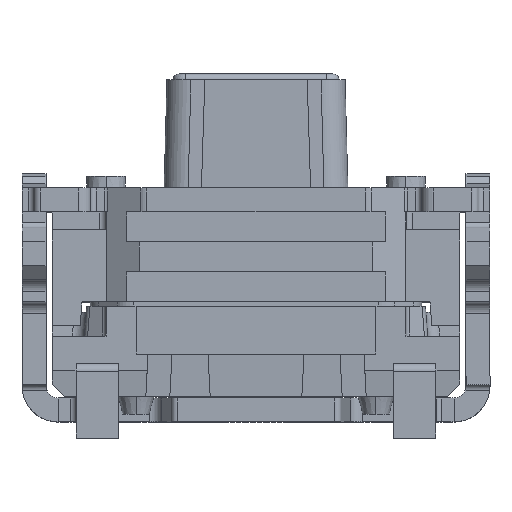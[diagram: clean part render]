
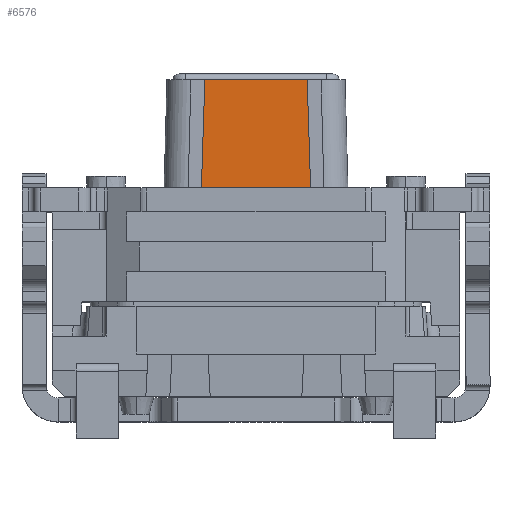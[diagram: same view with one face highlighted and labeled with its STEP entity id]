
A CAD part, top view. The second image highlights one B-rep face of the part: STEP entity #6576.
In plain terms, the highlighted planar face has unit normal (0, -0.009, 1).
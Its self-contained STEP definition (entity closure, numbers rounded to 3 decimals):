
#528 = CARTESIAN_POINT ( 'NONE',  ( -0.456, 1.699, 0.38 ) ) ;
#530 = DIRECTION ( 'NONE',  ( -0.032, -0.999, -0.009 ) ) ;
#534 = CARTESIAN_POINT ( 'NONE',  ( 0.456, 1.699, 0.38 ) ) ;
#535 = DIRECTION ( 'NONE',  ( -0.032, 0.999, 0.009 ) ) ;
#538 = CARTESIAN_POINT ( 'NONE',  ( 0., 2.635, 0.388 ) ) ;
#539 = DIRECTION ( 'NONE',  ( -1., 0., 0. ) ) ;
#540 = CARTESIAN_POINT ( 'NONE',  ( 0., 1.685, 0.38 ) ) ;
#541 = DIRECTION ( 'NONE',  ( -1., 0., 0. ) ) ;
#4683 = AXIS2_PLACEMENT_3D ( 'NONE', #9138, #9143, #9144 ) ;
#6576 = ADVANCED_FACE ( 'NONE', ( #12784 ), #9137, .T. ) ;
#8027 = EDGE_CURVE ( 'NONE', #10933, #10929, #13511, .T. ) ;
#8030 = EDGE_CURVE ( 'NONE', #10936, #10939, #13521, .T. ) ;
#8032 = EDGE_CURVE ( 'NONE', #10939, #10933, #13529, .T. ) ;
#8033 = EDGE_CURVE ( 'NONE', #10936, #10929, #13533, .T. ) ;
#9137 = PLANE ( 'NONE',  #4683 ) ;
#9138 = CARTESIAN_POINT ( 'NONE',  ( 0., 1.685, 0.38 ) ) ;
#9143 = DIRECTION ( 'NONE',  ( 0., -0.009, 1. ) ) ;
#9144 = DIRECTION ( 'NONE',  ( 0., -1., -0.009 ) ) ;
#10053 = CARTESIAN_POINT ( 'NONE',  ( -0.457, 1.685, 0.38 ) ) ;
#10055 = CARTESIAN_POINT ( 'NONE',  ( -0.427, 2.635, 0.388 ) ) ;
#10057 = CARTESIAN_POINT ( 'NONE',  ( 0.457, 1.685, 0.38 ) ) ;
#10060 = CARTESIAN_POINT ( 'NONE',  ( 0.427, 2.635, 0.388 ) ) ;
#10574 = ORIENTED_EDGE ( 'NONE', *, *, #8030, .T. ) ;
#10576 = ORIENTED_EDGE ( 'NONE', *, *, #8032, .T. ) ;
#10578 = ORIENTED_EDGE ( 'NONE', *, *, #8027, .T. ) ;
#10580 = ORIENTED_EDGE ( 'NONE', *, *, #8033, .F. ) ;
#10797 = EDGE_LOOP ( 'NONE', ( #10574, #10576, #10578, #10580 ) ) ;
#10929 = VERTEX_POINT ( 'NONE', #10053 ) ;
#10933 = VERTEX_POINT ( 'NONE', #10055 ) ;
#10936 = VERTEX_POINT ( 'NONE', #10057 ) ;
#10939 = VERTEX_POINT ( 'NONE', #10060 ) ;
#12784 = FACE_OUTER_BOUND ( 'NONE', #10797, .T. ) ;
#13511 = LINE ( 'NONE', #528, #13515 ) ;
#13515 = VECTOR ( 'NONE', #530, 1000. ) ;
#13521 = LINE ( 'NONE', #534, #13527 ) ;
#13527 = VECTOR ( 'NONE', #535, 1000. ) ;
#13529 = LINE ( 'NONE', #538, #13535 ) ;
#13533 = LINE ( 'NONE', #540, #13539 ) ;
#13535 = VECTOR ( 'NONE', #539, 1000. ) ;
#13539 = VECTOR ( 'NONE', #541, 1000. ) ;
